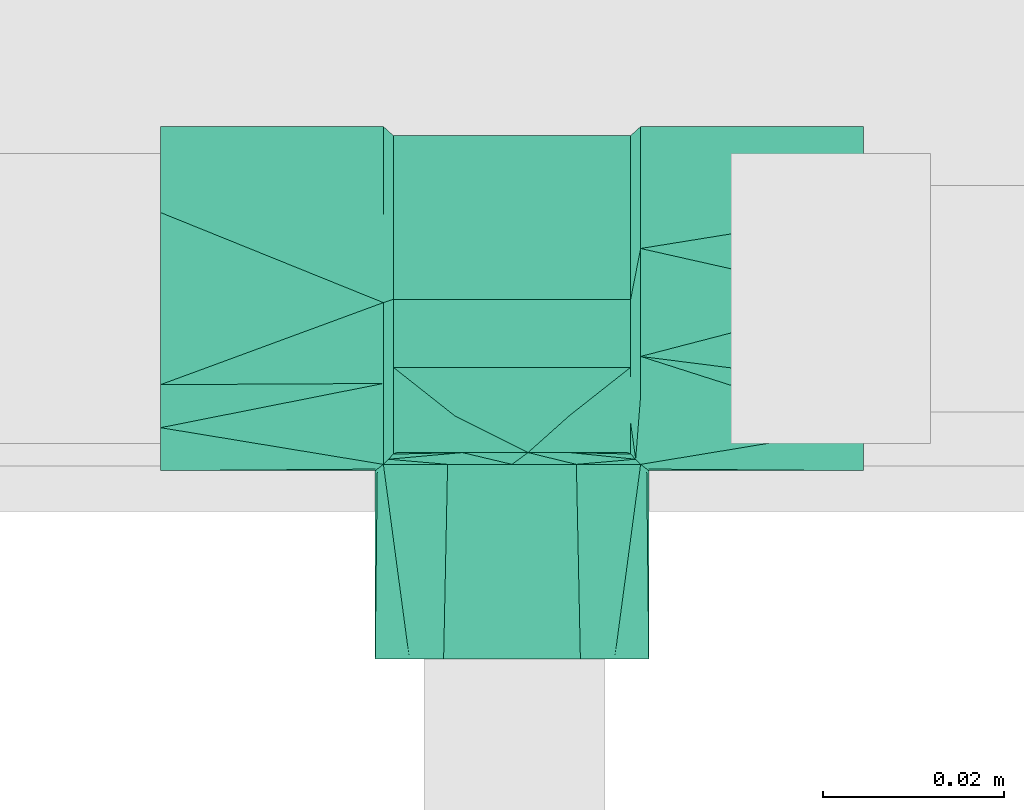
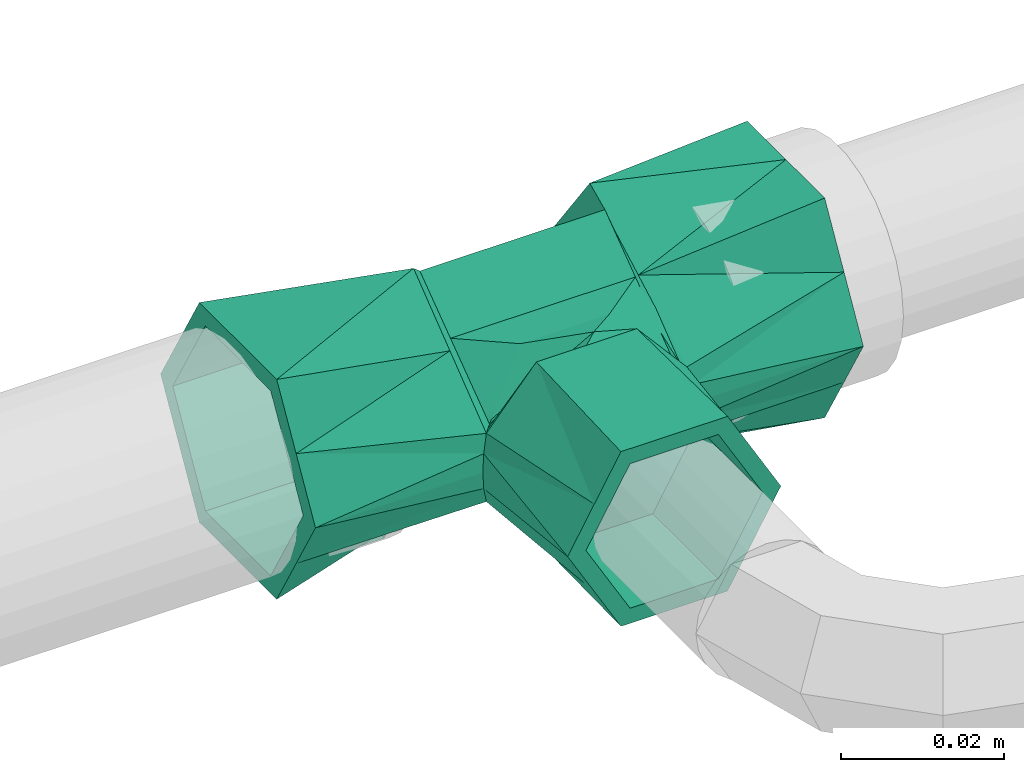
# One storey, part 109 of 166: 1 flow fitting.
"""IFC2X3 building model written with IfcOpenShell, lengths in metres."""

import ifcopenshell
import ifcopenshell.guid

model = None  # the IFC model being written
_history = None  # IfcOwnerHistory: only IFC2X3 demands one
_inside = {}  # id of a spatial element -> (the spatial element, [elements in it])
_under = {}  # id of a project, library or spatial element -> (it, [spatial elements below it])
_declared = {}  # id of a project -> (the project, [libraries it declares])
_typed = {}  # id of a type object -> (the type object, [elements of that type])
_made_of = {}  # id of a material, layer set ... -> (it, [elements and type objects made of it])


def new_model(schema):
    """Start an empty IFC model of exactly this schema.

    Asked for "IFC4X3", IfcOpenShell would pick the latest addendum, in which some entities
    have other attributes; the version numbers below select the first issue.
    IFC2X3 requires an IfcOwnerHistory on every rooted entity: one is made here for all.
    """
    global model, _history
    if schema == "IFC4X3":
        model = ifcopenshell.file(schema_version=(4, 3, 0, 0))
    else:
        model = ifcopenshell.file(schema=schema)
    _inside.clear()
    _under.clear()
    _declared.clear()
    _typed.clear()
    _made_of.clear()
    _history = None
    if model.schema == "IFC2X3":
        org = make("IfcOrganization", Name="unknown")
        user = make(
            "IfcPersonAndOrganization",
            ThePerson=make("IfcPerson", FamilyName="unknown"),
            TheOrganization=org,
        )
        app = make(
            "IfcApplication",
            ApplicationDeveloper=org,
            Version="unknown",
            ApplicationFullName="unknown",
            ApplicationIdentifier="unknown",
        )
        _history = make(
            "IfcOwnerHistory",
            OwningUser=user,
            OwningApplication=app,
            ChangeAction="ADDED",
            CreationDate=0,
        )
    return model


def make(cls, **values):
    """One entity of the class cls with the attributes given. An attribute that is None is left unset."""
    return model.create_entity(
        cls, **{name: value for name, value in values.items() if value is not None}
    )


def entity(cls, *values):
    """Any entity or typed value of the class cls, its attributes in the order of the schema. None: left unset."""
    e = model.create_entity(cls)
    for i, value in enumerate(values):
        if value is not None:
            e[i] = value
    return e


def rooted(cls, **values):
    """An entity with a GlobalId (a new one), such as an element, a storey or a relation."""
    return make(cls, GlobalId=ifcopenshell.guid.new(), OwnerHistory=_history, **values)


def si_unit(unit_type, name, prefix=None):
    """IfcSIUnit, for example si_unit("LENGTHUNIT", "METRE", prefix="MILLI")."""
    return make("IfcSIUnit", UnitType=unit_type, Prefix=prefix, Name=name)


def converted_unit(unit_type, name, factor, base, dimensions=None, offset=None):
    """IfcConversionBasedUnit, such as the inch: factor (a typed value) times the base unit."""
    return make(
        "IfcConversionBasedUnit"
        if offset is None
        else "IfcConversionBasedUnitWithOffset",
        ConversionOffset=offset,
        Dimensions=None
        if dimensions is None
        else entity("IfcDimensionalExponents", *dimensions),
        UnitType=unit_type,
        Name=name,
        ConversionFactor=make(
            "IfcMeasureWithUnit", ValueComponent=factor, UnitComponent=base
        ),
    )


def assignment(units):
    """IfcUnitAssignment: the units of a project."""
    return None if units is None else make("IfcUnitAssignment", Units=units)


def point(xyz):
    """IfcCartesianPoint."""
    return None if xyz is None else make("IfcCartesianPoint", Coordinates=xyz)


def direction(xyz):
    """IfcDirection."""
    return None if xyz is None else make("IfcDirection", DirectionRatios=xyz)


def frame(location, z_axis=None, x_axis=None):
    """IfcAxis2Placement3D, a coordinate frame: its origin and axes. An axis left out is left unset."""
    return make(
        "IfcAxis2Placement3D",
        Location=point(location),
        Axis=direction(z_axis),
        RefDirection=direction(x_axis),
    )


def origin():
    """The frame at (0, 0, 0) with its axes left unset."""
    return frame((0.0, 0.0, 0.0))


def place(relative_to, where):
    """IfcLocalPlacement: puts the frame where relative to a parent placement (None: the world)."""
    return make(
        "IfcLocalPlacement", PlacementRelTo=relative_to, RelativePlacement=where
    )


def context(
    kind, dimensions, precision=None, world=None, true_north=None, identifier=None
):
    """IfcGeometricRepresentationContext, for example the 3D "Model" context."""
    return make(
        "IfcGeometricRepresentationContext",
        ContextIdentifier=identifier,
        ContextType=kind,
        CoordinateSpaceDimension=dimensions,
        Precision=precision,
        WorldCoordinateSystem=world,
        TrueNorth=true_north,
    )


def subcontext(parent, identifier, kind, view, scale=None):
    """IfcGeometricRepresentationSubContext, for example "Body" below "Model"."""
    return make(
        "IfcGeometricRepresentationSubContext",
        ContextIdentifier=identifier,
        ContextType=kind,
        ParentContext=parent,
        TargetScale=scale,
        TargetView=view,
    )


def project(units=None, contexts=None):
    """IfcProject with its units and contexts."""
    return rooted(
        "IfcProject",
        Name="project",
        RepresentationContexts=contexts,
        UnitsInContext=assignment(units),
    )


def spatial(cls, under=None, at=None, **own):
    """A site, building, storey or space (cls), placed at a placement, below another one or the project."""
    s = rooted(cls, ObjectPlacement=at, **own)
    if under is not None:
        _under.setdefault(under.id(), (under, []))[1].append(s)
    return s


def faces_of(points, faces, orient=None, outer=None):
    """IfcFace entities. A face is a list of loops; a loop is a list of indices into points, from 0.

    orient and outer hold one flag for each loop. By default every Orientation is true, the
    first loop of a face is its IfcFaceOuterBound and the others are IfcFaceBound.
    """
    made = []
    for i, loops in enumerate(faces):
        bounds = []
        for j, loop in enumerate(loops):
            is_outer = j == 0 if outer is None else outer[i][j]
            bounds.append(
                make(
                    "IfcFaceOuterBound" if is_outer else "IfcFaceBound",
                    Bound=make("IfcPolyLoop", Polygon=[points[k] for k in loop]),
                    Orientation=True if orient is None else orient[i][j],
                )
            )
        made.append(make("IfcFace", Bounds=bounds))
    return made


def faceted_brep(points, faces, orient=None, outer=None, voids=None):
    """IfcFacetedBrep: a solid bounded by flat faces; with voids (closed shells), ...WithVoids."""
    shared = [point(p) for p in points]
    hull = make("IfcClosedShell", CfsFaces=faces_of(shared, faces, orient, outer))
    if voids is None:
        return make("IfcFacetedBrep", Outer=hull)
    return make(
        "IfcFacetedBrepWithVoids",
        Outer=hull,
        Voids=[
            make(cls, CfsFaces=faces_of(shared, fs, o, b)) for cls, fs, o, b in voids
        ],
    )


def shape(context_of_items, identifier, shape_type, items):
    """IfcShapeRepresentation: the items that make up one representation, for example the "Body"."""
    return make(
        "IfcShapeRepresentation",
        ContextOfItems=context_of_items,
        RepresentationIdentifier=identifier,
        RepresentationType=shape_type,
        Items=items,
    )


def source(mapping_origin, context_of_items, identifier, shape_type, items):
    """IfcRepresentationMap: a shape defined once, which mapped items show again and again."""
    return make(
        "IfcRepresentationMap",
        MappingOrigin=mapping_origin,
        MappedRepresentation=shape(context_of_items, identifier, shape_type, items),
    )


def transform(
    local_origin,
    x_axis=None,
    y_axis=None,
    z_axis=None,
    scale=None,
    scale2=None,
    scale3=None,
    uniform=True,
):
    """IfcCartesianTransformationOperator3D, or its non-uniform kind. x_axis, y_axis, z_axis: its Axis1, 2, 3."""
    if uniform:
        return make(
            "IfcCartesianTransformationOperator3D",
            Axis1=direction(x_axis),
            Axis2=direction(y_axis),
            LocalOrigin=point(local_origin),
            Scale=scale,
            Axis3=direction(z_axis),
        )
    return make(
        "IfcCartesianTransformationOperator3DnonUniform",
        Axis1=direction(x_axis),
        Axis2=direction(y_axis),
        LocalOrigin=point(local_origin),
        Scale=scale,
        Axis3=direction(z_axis),
        Scale2=scale2,
        Scale3=scale3,
    )


def mapped(mapping_source, mapping_target):
    """IfcMappedItem: shows the shape of a source again, moved by a transform."""
    return make(
        "IfcMappedItem", MappingSource=mapping_source, MappingTarget=mapping_target
    )


def material(Name=None, Category=None):
    """IfcMaterial."""
    return make("IfcMaterial", Name=Name, Category=Category)


def made_of(thing, what):
    """Note that an element or type object is made of a material, layer set ...; save() writes the relation."""
    if what is not None:
        _made_of.setdefault(what.id(), (what, []))[1].append(thing)
    return thing


def type_object(cls, material=None, **own):
    """A type object (cls), such as IfcWallType, which elements share."""
    return made_of(rooted(cls, **own), material)


def type_shapes(of_type, sources):
    """Give a type object the sources (RepresentationMaps) that its elements show as mapped items."""
    of_type.RepresentationMaps = sources


def element(
    cls,
    number,
    at=None,
    inside=None,
    cuts=None,
    type_object=None,
    material=None,
    context=None,
    identifier="Body",
    shape_type=None,
    held_by="IfcProductDefinitionShape",
    body=None,
    shapes=None,
    **own,
):
    """One element of the class cls, such as IfcWall. Its Tag is "e" and its number.

    at: its placement. inside: the storey or other place that contains it. cuts: it is an
    opening in that element (IfcRelVoidsElement). A single representation is given by context,
    identifier, shape_type and body (its items); several are given by shapes. held_by: the class
    of the entity that holds the representations. save() writes the other relations.
    """
    e = rooted(cls, Tag="e%d" % number, ObjectPlacement=at, **own)
    if body is not None:
        shapes = [shape(context, identifier, shape_type, body)]
    if shapes is not None:
        e.Representation = make(held_by, Representations=shapes)
    if inside is not None:
        _inside.setdefault(inside.id(), (inside, []))[1].append(e)
    if cuts is not None:
        rooted(
            "IfcRelVoidsElement", RelatingBuildingElement=cuts, RelatedOpeningElement=e
        )
    if type_object is not None:
        _typed.setdefault(type_object.id(), (type_object, []))[1].append(e)
    return made_of(e, material)


def aggregate(whole, parts):
    """IfcRelAggregates: a whole, such as a stair, and the parts it consists of."""
    return rooted("IfcRelAggregates", RelatingObject=whole, RelatedObjects=parts)


def save(model, path):
    """Write the relations noted so far, then the file.

    IfcRelAggregates (storeys below a building ...), IfcRelContainedInSpatialStructure (elements
    in a storey), IfcRelDefinesByType, IfcRelAssociatesMaterial and IfcRelDeclares: one each for
    every whole, place, type object, material and project.
    """
    for whole, parts in _under.values():
        aggregate(whole, parts)
    for where, things in _inside.values():
        rooted(
            "IfcRelContainedInSpatialStructure",
            RelatedElements=things,
            RelatingStructure=where,
        )
    for kind, things in _typed.values():
        rooted("IfcRelDefinesByType", RelatedObjects=things, RelatingType=kind)
    for what, things in _made_of.values():
        rooted("IfcRelAssociatesMaterial", RelatedObjects=things, RelatingMaterial=what)
    for by, libraries in _declared.values():
        rooted("IfcRelDeclares", RelatingContext=by, RelatedDefinitions=libraries)
    model.write(path)


model = new_model("IFC2X3")

# Units and contexts
model_context = context("Model", 3, precision=1e-05, world=origin(), true_north=direction((6.123233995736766e-17, 1.0)))
body_context = subcontext(model_context, "Body", "Model", "MODEL_VIEW")
ifc_project = project(units=[si_unit("LENGTHUNIT", "METRE"), converted_unit("PLANEANGLEUNIT", "DEGREE", entity("IfcPlaneAngleMeasure", 0.017453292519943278), si_unit("PLANEANGLEUNIT", "RADIAN"), dimensions=[0, 0, 0, 0, 0, 0, 0]), si_unit("AREAUNIT", "SQUARE_METRE")], contexts=[model_context])

# Site, building, storey
site_placement = place(None, origin())
site = spatial("IfcSite", under=ifc_project, at=site_placement, Name="Default", CompositionType="ELEMENT")
building_placement = place(site_placement, origin())
building = spatial("IfcBuilding", under=site, at=building_placement, Name="CASA DE ACOLHIDA PARA IDOSOS", CompositionType="ELEMENT")
storey_placement = place(building_placement, frame((0.0, 0.0, -1.7499999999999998)))
storey = spatial("IfcBuildingStorey", under=building, at=storey_placement, Name="IMPLANTAÇÃO DRENAGEM", CompositionType="ELEMENT", Elevation=-1.7499999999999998)

# Flow fitting
ifc_material = material(Name="PVC Branco")
pipe_fitting_type = type_object("IfcPipeFittingType", Name="AF_Roscavel_Te_Reducao:Standard", PredefinedType="NOTDEFINED", material=ifc_material)
shared_shape = source(origin(), body_context, "Body", "Brep", [
    faceted_brep([(-0.014199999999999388, 0.01563344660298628, -0.004544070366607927), (-0.014199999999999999, 0.018999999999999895, 0.0), (-0.0131, 0.01799999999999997, 0.0), (-0.014199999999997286, -0.01071379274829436, -0.009268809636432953), (-0.013099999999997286, -0.00862473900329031, -0.011707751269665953), (-0.01309999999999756, -0.012376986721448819, -0.008943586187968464), (-0.013099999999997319, -0.013728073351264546, -0.00794828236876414), (-0.01419999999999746, -0.0004246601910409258, -0.01490965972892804), (-0.01309999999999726, -0.004354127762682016, -0.014853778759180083), (-0.01419999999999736, -0.006383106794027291, -0.011643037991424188), (-0.013099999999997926, 0.004437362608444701, -0.013499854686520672), (-0.014199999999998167, 0.008900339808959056, -0.013632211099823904), (-0.013099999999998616, 0.008958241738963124, -0.008999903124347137), (-0.013099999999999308, 0.013479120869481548, -0.004499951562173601), (-0.01419999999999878, 0.01226689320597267, -0.009088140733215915), (-0.013653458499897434, -0.01773405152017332, -0.005279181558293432), (-0.013099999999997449, -0.014771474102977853, -0.007179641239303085), (-0.013099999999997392, -0.015968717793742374, -0.006297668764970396), (-0.013099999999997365, -0.016567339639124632, -0.005856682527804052), (-0.013099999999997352, -0.016866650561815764, -0.005636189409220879), (-0.013099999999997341, -0.017016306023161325, -0.005525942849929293), (-0.01309999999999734, -0.017165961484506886, -0.005415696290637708), (-0.014199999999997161, -0.018300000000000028, -0.005109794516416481), (-0.014199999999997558, 0.005533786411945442, -0.018176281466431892), (-0.013099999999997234, -8.35165220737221e-05, -0.017999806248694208), (-0.013099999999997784, -0.007588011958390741, -0.012471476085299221), (-0.013100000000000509, -0.0001668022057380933, 0.014208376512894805), (-0.014200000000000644, -0.004906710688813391, 0.015523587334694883), (-0.01310000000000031, -0.005833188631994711, 0.011277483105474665), (-0.014200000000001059, 0.014139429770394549, 0.0047487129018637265), (-0.013100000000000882, 0.011749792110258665, 0.00856963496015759), (-0.013100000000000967, 0.014874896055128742, 0.004284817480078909), (-0.01420000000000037, -0.009371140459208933, 0.012052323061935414), (-0.014200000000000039, -0.014747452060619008, 0.007872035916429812), (-0.013100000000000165, -0.009867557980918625, 0.009190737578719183), (-0.014200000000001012, 0.009278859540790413, 0.00949742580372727), (-0.014200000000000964, 0.004418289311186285, 0.014246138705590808), (-0.01310000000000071, 0.0054995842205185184, 0.01713926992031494), (-0.013100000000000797, 0.008624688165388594, 0.012854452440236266), (-0.013653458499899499, -0.017734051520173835, 0.005279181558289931), (-0.014200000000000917, -0.0004422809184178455, 0.018994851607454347), (-0.014199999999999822, -0.01830000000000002, 0.005109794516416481), (-0.013099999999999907, -0.01716596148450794, 0.0054156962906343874), (-0.013099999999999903, -0.01700710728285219, 0.005497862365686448), (-0.013099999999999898, -0.016848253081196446, 0.0055800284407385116), (-0.013099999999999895, -0.016530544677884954, 0.0057443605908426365), (-0.01309999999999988, -0.015895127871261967, 0.006073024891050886), (-0.01309999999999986, -0.014624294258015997, 0.006730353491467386), (-0.013099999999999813, -0.012082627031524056, 0.008045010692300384), (-0.013099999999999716, 0.010989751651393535, 0.009611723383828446), (-0.013099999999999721, -0.006999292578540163, 0.010674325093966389), (0.00953576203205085, -0.014962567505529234, 0.009221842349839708), (0.01113423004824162, -0.01598128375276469, 0.007568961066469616), (0.013100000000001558, -0.014624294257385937, 0.006730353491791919), (0.013100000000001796, -0.006999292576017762, 0.010674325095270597), (0.013100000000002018, -0.005833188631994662, 0.011277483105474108), (0.013100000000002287, -0.00016680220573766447, 0.01420837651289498), (0.013100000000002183, 0.005499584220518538, 0.017139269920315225), (0.0127326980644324, -0.017000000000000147, 0.005916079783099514), (0.012919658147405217, -0.017084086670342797, 0.005668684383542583), (0.01310000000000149, -0.01684825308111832, 0.0055800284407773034), (0.013100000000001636, -0.012082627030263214, 0.00804501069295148), (0.006338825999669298, -0.01292513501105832, 0.012527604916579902), (0.007625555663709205, -0.013745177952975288, 0.011197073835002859), (0.008912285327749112, -0.014565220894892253, 0.009866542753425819), (-0.011133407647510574, -0.015980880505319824, 0.007569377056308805), (-0.01082226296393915, -0.015782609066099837, 0.007891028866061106), (-0.009534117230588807, -0.014961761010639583, 0.009222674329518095), (-0.008911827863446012, -0.014565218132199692, 0.00986597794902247), (-0.006335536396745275, -0.0129235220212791, 0.012529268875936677), (-0.012977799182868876, -0.017110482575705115, 0.005587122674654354), (-0.012919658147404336, -0.017084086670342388, 0.005668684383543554), (0.013100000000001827, -0.00986755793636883, 0.00919073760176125), (-0.01273269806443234, -0.017000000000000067, 0.005916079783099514), (-0.011933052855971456, -0.016490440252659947, 0.00674272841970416), (0.0131000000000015, -0.01653054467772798, 0.005744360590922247), (0.011933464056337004, -0.016490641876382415, 0.006742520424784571), (0.013100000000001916, 0.008624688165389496, 0.012854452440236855), (0.013100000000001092, 0.011749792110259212, 0.00856963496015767), (0.013100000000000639, 0.014874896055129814, 0.0042848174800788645), (0.0131, 0.017999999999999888, 0.0), (0.012977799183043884, -0.01711048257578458, 0.005587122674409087), (0.01310000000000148, -0.017165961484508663, 0.005415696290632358), (0.013100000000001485, -0.017007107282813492, 0.005497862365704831), (0.01310000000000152, -0.0158951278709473, 0.006073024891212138), (0.01309999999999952, 0.012176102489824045, -0.005796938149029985), (0.013099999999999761, 0.008958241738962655, -0.008999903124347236), (0.013099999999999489, 0.006352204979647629, -0.011593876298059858), (0.013099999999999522, -8.351652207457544e-05, -0.01799980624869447), (-0.01291965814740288, -0.017084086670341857, -0.005668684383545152), (-0.012977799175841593, -0.017110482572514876, -0.005587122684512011), (0.013099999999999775, -0.007588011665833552, -0.012471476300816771), (0.0063388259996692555, -0.012925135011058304, -0.012527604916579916), (-0.006335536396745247, -0.01292352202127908, -0.012529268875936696), (0.013099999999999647, -0.005186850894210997, -0.014240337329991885), (-0.01273269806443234, -0.017000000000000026, -0.005916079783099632), (-0.011933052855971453, -0.01649044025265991, -0.006742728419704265), (0.009535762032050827, -0.014962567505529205, -0.009221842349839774), (0.013099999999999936, -0.012376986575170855, -0.008943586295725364), (0.013100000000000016, -0.014771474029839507, -0.007179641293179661), (0.013100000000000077, -0.016567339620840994, -0.005856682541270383), (0.0127326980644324, -0.017000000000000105, -0.005916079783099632), (0.011933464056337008, -0.01649064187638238, -0.006742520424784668), (0.008912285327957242, -0.01456522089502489, -0.009866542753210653), (0.013099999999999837, -0.010290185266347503, -0.010480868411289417), (0.012977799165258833, -0.017110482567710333, -0.005587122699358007), (0.012919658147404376, -0.017084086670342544, -0.005668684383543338), (0.013100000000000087, -0.016866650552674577, -0.005636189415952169), (0.01310000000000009, -0.017016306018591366, -0.005525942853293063), (0.013100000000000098, -0.01716596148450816, -0.0054156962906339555), (0.011134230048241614, -0.015981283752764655, -0.007568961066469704), (0.010822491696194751, -0.01578261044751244, -0.00789131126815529), (-0.007623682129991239, -0.01374437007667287, -0.011197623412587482), (-0.008911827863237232, -0.01456521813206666, -0.00986597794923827), (-0.009534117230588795, -0.014961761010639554, -0.009222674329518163), (-0.011133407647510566, -0.01598088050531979, -0.007569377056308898), (0.013100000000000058, -0.01596871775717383, -0.006297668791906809), (0.014200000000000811, 0.01226689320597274, 0.009088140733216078), (0.014200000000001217, 0.008900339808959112, 0.013632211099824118), (0.014200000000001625, 0.005533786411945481, 0.018176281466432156), (0.014200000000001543, -0.00312758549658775, 0.013427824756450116), (0.014200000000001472, -0.010713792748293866, 0.009268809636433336), (0.013653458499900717, -0.017734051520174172, 0.005279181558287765), (0.014200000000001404, -0.01829999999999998, 0.005109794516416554), (0.014199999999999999, 0.019, 0.0), (0.014200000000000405, 0.01563344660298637, 0.004544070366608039), (0.014200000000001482, -0.0063831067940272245, 0.011643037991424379), (0.014199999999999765, -0.00044228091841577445, -0.018994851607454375), (0.014199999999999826, -0.004906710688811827, -0.015523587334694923), (0.01419999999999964, 0.009278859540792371, -0.009497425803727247), (0.014199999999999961, -0.0147474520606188, -0.007872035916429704), (0.01420000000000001, -0.018299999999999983, -0.005109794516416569), (0.013653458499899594, -0.017734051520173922, -0.00527918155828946), (0.014199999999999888, -0.009371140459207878, -0.01205232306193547), (0.014199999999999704, 0.0044182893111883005, -0.01424613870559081), (0.014199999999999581, 0.014139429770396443, -0.004748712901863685), (-0.0388000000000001, -0.009500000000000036, -0.016454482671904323), (-0.0388000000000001, -0.016, 0.0), (-0.03879999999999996, -0.011857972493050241, -0.007174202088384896), (-0.0388000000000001, -0.014250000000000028, -0.008227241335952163), (-0.0388000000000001, -0.008000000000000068, -0.01385640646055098), (-0.0388000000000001, 0.0, -0.013856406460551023), (-0.0388000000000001, 0.007999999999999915, -0.013856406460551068), (-0.0388000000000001, 0.0, -0.01645448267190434), (-0.0388000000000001, -0.01900000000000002, 0.0), (-0.0388000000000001, -0.012000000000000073, 0.006928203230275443), (-0.0388000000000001, -0.008000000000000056, 0.013856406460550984), (-0.0388000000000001, -0.014249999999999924, 0.008227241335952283), (-0.0388000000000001, -0.00949999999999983, 0.01645448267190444), (-0.0388000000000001, 0.0, 0.013856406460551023), (-0.0388000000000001, 0.007999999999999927, 0.01385640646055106), (-0.0388000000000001, 0.0, 0.01645448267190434), (-0.0388000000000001, 0.009500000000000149, 0.016454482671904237), (-0.0388000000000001, 0.01549204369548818, 0.006075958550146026), (-0.0388000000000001, 0.01899999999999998, 0.0), (-0.03879999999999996, 0.01185797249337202, 0.007174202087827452), (-0.0388000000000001, 0.016, 0.0), (-0.0388000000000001, 0.014249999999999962, -0.0082272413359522), (-0.0388000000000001, 0.009499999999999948, -0.016454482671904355), (-0.0388000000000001, 0.011999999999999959, -0.006928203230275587), (-0.014872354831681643, -0.018819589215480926, 0.0026120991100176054), (-0.015099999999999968, -0.01900000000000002, 0.0), (0.0388000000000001, -0.019, 0.0), (0.014872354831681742, -0.018819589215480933, 0.0026120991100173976), (0.015100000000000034, -0.019, 0.0), (0.0388000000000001, 0.014249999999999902, 0.008227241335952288), (0.0388000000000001, 0.019, 0.0), (-0.014872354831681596, -0.018819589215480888, -0.0026120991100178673), (0.014872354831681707, -0.018819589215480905, -0.0026120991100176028), (0.0388000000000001, 0.015492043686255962, -0.006075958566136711), (0.0388000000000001, 0.009500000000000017, -0.016454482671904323), (0.0388000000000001, 0.015999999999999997, 0.0), (0.038800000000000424, 0.011857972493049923, -0.007174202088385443), (0.0388000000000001, 0.008000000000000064, -0.01385640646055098), (0.0388000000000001, 0.0, -0.013856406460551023), (0.0388000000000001, -0.007999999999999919, -0.013856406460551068), (0.0388000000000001, 0.0, -0.01645448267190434), (0.0388000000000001, 0.012000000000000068, 0.006928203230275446), (0.0388000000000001, 0.00800000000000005, 0.013856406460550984), (0.0388000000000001, 0.00949999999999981, 0.01645448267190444), (0.0388000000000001, 0.0, 0.013856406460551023), (0.0388000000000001, -0.00799999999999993, 0.01385640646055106), (0.0388000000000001, 0.0, 0.01645448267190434), (0.0388000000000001, -0.00950000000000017, 0.016454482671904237), (0.0388000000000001, -0.014250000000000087, 0.008227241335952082), (0.038800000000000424, -0.01185797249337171, 0.007174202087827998), (0.0388000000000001, -0.016000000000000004, 0.0), (0.0388000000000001, -0.014249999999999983, -0.008227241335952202), (0.0388000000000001, -0.009499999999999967, -0.016454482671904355), (0.0388000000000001, -0.011999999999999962, -0.006928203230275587), (-0.02269999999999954, -0.016, 0.0), (-0.02269999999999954, -0.01185797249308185, 0.0071742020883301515), (-0.02269999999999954, -0.008000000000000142, 0.013856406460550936), (-0.02269999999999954, 0.0, 0.013856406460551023), (-0.02269999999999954, 0.007999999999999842, 0.01385640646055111), (-0.02269999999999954, 0.01199999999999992, 0.006928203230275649), (-0.02269999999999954, 0.016, 0.0), (-0.02269999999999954, 0.011857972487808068, -0.007174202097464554), (-0.02269999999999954, 0.008000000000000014, -0.01385640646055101), (-0.022699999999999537, 0.0, -0.01385640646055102), (-0.02269999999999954, -0.007999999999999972, -0.013856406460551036), (-0.02269999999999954, -0.011999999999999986, -0.006928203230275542), (0.022700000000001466, -0.016000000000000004, 0.0), (0.022700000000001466, -0.011999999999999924, 0.006928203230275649), (0.022700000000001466, -0.007999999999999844, 0.01385640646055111), (0.022700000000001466, 0.0, 0.013856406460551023), (0.022700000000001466, 0.00800000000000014, 0.013856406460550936), (0.022700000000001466, 0.011857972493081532, 0.007174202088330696), (0.022700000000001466, 0.015999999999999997, 0.0), (0.022700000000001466, 0.011999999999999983, -0.006928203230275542), (0.022700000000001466, 0.00799999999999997, -0.013856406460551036), (0.022700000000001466, 0.0, -0.013856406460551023), (0.022700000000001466, -0.008000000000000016, -0.01385640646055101), (0.022700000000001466, -0.011857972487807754, -0.007174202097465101), (0.01250000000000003, -0.02369999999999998, 0.0), (0.006250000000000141, -0.023699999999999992, 0.010825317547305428), (-0.006249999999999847, -0.02370000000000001, 0.010825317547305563), (-0.012499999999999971, -0.023700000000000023, 0.0), (-0.006249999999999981, -0.02370000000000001, -0.010825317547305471), (0.006250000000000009, -0.023699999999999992, -0.01082531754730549), (0.012500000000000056, -0.03979999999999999, 0.0), (0.006250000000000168, -0.039799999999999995, 0.010825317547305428), (-0.00624999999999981, -0.039800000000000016, 0.01082531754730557), (-0.012499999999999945, -0.03980000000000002, 0.0), (-0.006249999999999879, -0.039800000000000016, -0.010825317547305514), (0.006250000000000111, -0.039799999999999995, -0.010825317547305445), (-0.0017679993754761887, -0.01700000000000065, -0.013928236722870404), (-0.006407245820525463, -0.017000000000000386, -0.010538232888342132), (0.009386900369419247, -0.01700000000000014, -0.007764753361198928), (0.006041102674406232, -0.017000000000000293, -0.009613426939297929), (0.005482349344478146, -0.017000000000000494, -0.009922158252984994), (0.0017662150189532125, -0.016999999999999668, 0.013928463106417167), (0.006407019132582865, -0.016999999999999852, 0.010537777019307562), (-0.009386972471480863, -0.01699999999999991, 0.007764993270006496), (-0.00604124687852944, -0.016999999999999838, 0.009613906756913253), (-0.005483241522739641, -0.01699999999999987, 0.009922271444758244), (1.2383427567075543e-06, -0.018300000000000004, 0.013321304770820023), (0.007111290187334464, -0.018299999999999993, 0.013320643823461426), (-0.007108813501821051, -0.018300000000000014, 0.013321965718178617), (1.2383427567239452e-06, -0.01830000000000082, -0.013321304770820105), (-0.007108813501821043, -0.018300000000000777, -0.013321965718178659), (0.007111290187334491, -0.018300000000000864, -0.01332064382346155), (0.007550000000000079, -0.039799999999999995, -0.013076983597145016), (0.011325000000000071, -0.03979999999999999, -0.00653849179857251), (0.0, -0.0398, -0.013076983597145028), (0.015100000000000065, -0.03979999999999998, 0.0), (0.011324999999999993, -0.03979999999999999, 0.006538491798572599), (0.007549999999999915, -0.039799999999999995, 0.01307698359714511), (0.0, -0.0398, 0.013076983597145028), (-0.007550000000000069, -0.039800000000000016, 0.013076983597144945), (-0.011325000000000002, -0.03980000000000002, 0.006538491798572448), (-0.015099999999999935, -0.03980000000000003, 0.0), (-0.011324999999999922, -0.03980000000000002, -0.006538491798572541), (-0.007549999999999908, -0.039800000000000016, -0.01307698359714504)], [[[0, 1, 2]], [[3, 4, 5, 6]], [[7, 8, 9]], [[10, 11, 12]], [[13, 14, 0]], [[15, 6, 16, 17, 18, 19, 20, 21]], [[4, 3, 9]], [[3, 6, 15]], [[0, 2, 13]], [[15, 22, 3]], [[23, 10, 24]], [[12, 14, 13]], [[8, 7, 24]], [[9, 8, 25, 4]], [[11, 10, 23]], [[11, 14, 12]], [[7, 23, 24]], [[26, 27, 28]], [[29, 30, 31]], [[31, 1, 29]], [[31, 2, 1]], [[27, 32, 28]], [[33, 34, 32]], [[29, 35, 30]], [[36, 37, 38]], [[34, 33, 39]], [[40, 37, 36]], [[33, 41, 39]], [[39, 42, 43, 44, 45, 46, 47, 48, 34]], [[35, 38, 49, 30]], [[26, 40, 27]], [[26, 37, 40]], [[36, 38, 35]], [[32, 34, 50, 28]], [[51, 52, 53]], [[50, 54, 55, 56, 57, 37, 26, 28]], [[58, 59, 60]], [[61, 62, 63, 64, 51]], [[47, 65, 66, 67]], [[48, 67, 68, 69]], [[69, 50, 34, 48]], [[70, 71, 44, 43, 42]], [[62, 61, 72, 54]], [[45, 73, 74]], [[50, 69, 54]], [[58, 75, 76]], [[73, 44, 71]], [[2, 31, 30, 49, 38, 37, 57, 77, 78, 79, 80]], [[45, 44, 73]], [[62, 54, 69]], [[60, 75, 58]], [[67, 48, 47]], [[59, 81, 82, 83, 60]], [[84, 76, 75]], [[65, 47, 46]], [[61, 51, 53]], [[46, 74, 65]], [[53, 52, 84]], [[45, 74, 46]], [[84, 52, 76]], [[12, 13, 2, 80, 85, 86, 87, 88, 24, 10]], [[89, 90, 21, 20, 19]], [[91, 92, 93]], [[93, 25, 91]], [[24, 88, 94, 91, 25, 8]], [[95, 18, 96]], [[17, 96, 18]], [[97, 98, 99]], [[100, 101, 102]], [[98, 97, 103, 92]], [[92, 91, 104, 98]], [[105, 106, 107, 108, 109]], [[99, 110, 111, 97]], [[5, 93, 112, 113, 114]], [[114, 115, 16]], [[95, 89, 19]], [[19, 18, 95]], [[93, 5, 4, 25]], [[101, 107, 106]], [[100, 107, 101]], [[110, 99, 116]], [[114, 16, 6, 5]], [[116, 102, 110]], [[16, 115, 17]], [[100, 102, 116]], [[17, 115, 96]], [[117, 77, 118]], [[56, 119, 57]], [[57, 118, 77]], [[119, 118, 57]], [[119, 56, 120]], [[121, 55, 54, 72]], [[122, 72, 61, 53, 84, 75, 60, 83, 82]], [[121, 122, 123]], [[124, 80, 79]], [[122, 121, 72]], [[125, 79, 78]], [[78, 117, 125]], [[56, 55, 120]], [[55, 121, 126, 120]], [[124, 79, 125]], [[77, 117, 78]], [[127, 128, 88]], [[129, 87, 86, 85]], [[130, 131, 132]], [[130, 104, 133]], [[88, 134, 127]], [[80, 135, 85]], [[132, 109, 108, 107, 100, 116, 99, 98, 104]], [[133, 104, 91, 94]], [[134, 88, 87]], [[94, 128, 133]], [[87, 129, 134]], [[104, 130, 132]], [[88, 128, 94]], [[135, 80, 124]], [[135, 129, 85]], [[136, 137, 138]], [[137, 136, 139]], [[136, 138, 140]], [[136, 140, 141]], [[136, 141, 142]], [[142, 143, 136]], [[137, 139, 144]], [[144, 145, 137]], [[144, 146, 145]], [[146, 144, 147]], [[146, 147, 148]], [[148, 149, 146]], [[148, 150, 149]], [[150, 148, 151]], [[150, 151, 152]], [[150, 152, 153]], [[150, 153, 154]], [[154, 155, 150]], [[154, 156, 155]], [[156, 154, 157]], [[156, 157, 158]], [[158, 142, 159]], [[142, 158, 143]], [[158, 159, 156]], [[35, 153, 152]], [[40, 152, 151, 148]], [[153, 35, 29, 1]], [[147, 32, 148]], [[152, 40, 36, 35]], [[160, 144, 161]], [[162, 163, 164]], [[1, 154, 153]], [[165, 166, 124]], [[160, 41, 147]], [[144, 160, 147]], [[148, 32, 27, 40]], [[147, 41, 33, 32]], [[139, 9, 3, 22]], [[136, 9, 139]], [[167, 139, 22]], [[144, 167, 161]], [[168, 162, 164]], [[167, 144, 139]], [[143, 158, 23]], [[143, 9, 136]], [[157, 154, 1]], [[124, 166, 169]], [[157, 1, 0, 14]], [[158, 14, 11, 23]], [[143, 23, 7, 9]], [[14, 158, 157]], [[170, 171, 172]], [[171, 170, 169]], [[170, 172, 173]], [[170, 173, 174]], [[170, 174, 175]], [[175, 176, 170]], [[171, 169, 166]], [[166, 177, 171]], [[166, 178, 177]], [[178, 166, 165]], [[178, 165, 179]], [[179, 180, 178]], [[179, 181, 180]], [[181, 179, 182]], [[181, 182, 183]], [[181, 183, 184]], [[181, 184, 162]], [[162, 185, 181]], [[162, 186, 185]], [[186, 162, 187]], [[186, 187, 188]], [[188, 175, 189]], [[175, 188, 176]], [[188, 189, 186]], [[184, 126, 121, 123]], [[183, 126, 184]], [[163, 184, 123]], [[163, 162, 184]], [[182, 179, 119]], [[182, 126, 183]], [[165, 124, 125, 117]], [[179, 117, 118, 119]], [[182, 119, 120, 126]], [[117, 179, 165]], [[129, 169, 170]], [[127, 170, 176, 188]], [[169, 129, 135, 124]], [[187, 133, 188]], [[170, 127, 134, 129]], [[168, 131, 187]], [[162, 168, 187]], [[188, 133, 128, 127]], [[187, 131, 130, 133]], [[190, 191, 192, 193, 194, 195, 196, 197, 198, 199, 200, 201]], [[192, 191, 190, 137, 145, 146]], [[186, 202, 203, 204, 181, 185]], [[194, 193, 192, 146, 149, 150]], [[204, 205, 206, 178, 180, 181]], [[156, 196, 195, 194, 150, 155]], [[206, 207, 208, 171, 177, 178]], [[198, 197, 196, 156, 159, 142]], [[171, 208, 209, 210, 173, 172]], [[200, 199, 198, 142, 141, 140]], [[210, 211, 212, 175, 174, 173]], [[137, 190, 201, 200, 140, 138]], [[212, 213, 202, 186, 189, 175]], [[208, 207, 206, 205, 204, 203, 202, 213, 212, 211, 210, 209]], [[214, 215, 216, 217, 218, 219]], [[220, 221, 215, 214]], [[221, 222, 216, 215]], [[222, 223, 217, 216]], [[223, 224, 218, 217]], [[224, 225, 219, 218]], [[225, 220, 214, 219]], [[226, 227, 95, 96, 115, 114, 113, 112, 93]], [[92, 103, 97, 111, 110, 102, 101, 228, 229, 230, 226]], [[92, 226, 93]], [[231, 232, 58, 76, 52, 51, 64, 63, 62]], [[69, 68, 67, 66, 65, 74, 73, 233, 234, 235, 231]], [[69, 231, 62]], [[42, 39, 235]], [[235, 236, 231]], [[232, 82, 81, 59]], [[123, 122, 237]], [[236, 237, 231]], [[82, 232, 122]], [[237, 122, 232]], [[71, 235, 234, 233, 73]], [[235, 71, 70, 42]], [[39, 238, 235]], [[236, 235, 238]], [[39, 41, 238]], [[59, 58, 232]], [[237, 232, 231]], [[109, 132, 230]], [[230, 239, 226]], [[227, 21, 90, 89]], [[22, 15, 240]], [[239, 240, 226]], [[21, 227, 15]], [[240, 15, 227]], [[106, 230, 229, 228, 101]], [[230, 106, 105, 109]], [[132, 241, 230]], [[239, 230, 241]], [[132, 131, 241]], [[89, 95, 227]], [[240, 227, 226]], [[242, 220, 225]], [[220, 242, 243]], [[242, 225, 224]], [[224, 244, 242]], [[220, 243, 245]], [[221, 220, 245]], [[221, 245, 246]], [[221, 246, 247]], [[221, 247, 222]], [[222, 247, 248]], [[222, 248, 249]], [[222, 249, 250]], [[222, 250, 251]], [[251, 223, 222]], [[223, 251, 252]], [[223, 252, 253]], [[253, 224, 223]], [[224, 253, 244]], [[251, 160, 161]], [[249, 238, 250]], [[245, 164, 163]], [[238, 249, 248]], [[251, 250, 160]], [[250, 238, 41]], [[237, 248, 247]], [[245, 163, 246]], [[123, 246, 163]], [[237, 247, 246]], [[237, 246, 123]], [[160, 250, 41]], [[248, 237, 236, 238]], [[245, 168, 164]], [[242, 241, 243]], [[253, 240, 244]], [[251, 161, 167]], [[245, 243, 168]], [[243, 241, 131]], [[244, 240, 239, 241]], [[251, 167, 252]], [[22, 252, 167]], [[240, 253, 252]], [[240, 252, 22]], [[168, 243, 131]], [[242, 244, 241]]]),
])
type_shapes(pipe_fitting_type, [shared_shape])
flow_fitting_placement = place(storey_placement, frame((20.039051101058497, -16.745057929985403, -0.19999999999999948), z_axis=(0.0, 0.0, -1.0), x_axis=(-1.0, 0.0, 0.0)))
element("IfcFlowFitting", 1, at=flow_fitting_placement, inside=storey, type_object=pipe_fitting_type, material=ifc_material, Name="AF_Roscavel_Te_Reducao:Standard", ObjectType="AF_Roscavel_Te_Reducao:Standard", context=body_context, shape_type="MappedRepresentation", body=[
    mapped(shared_shape, transform((0.0, 0.0, 0.0), scale=1.0)),
])

save(model, "model.ifc")
